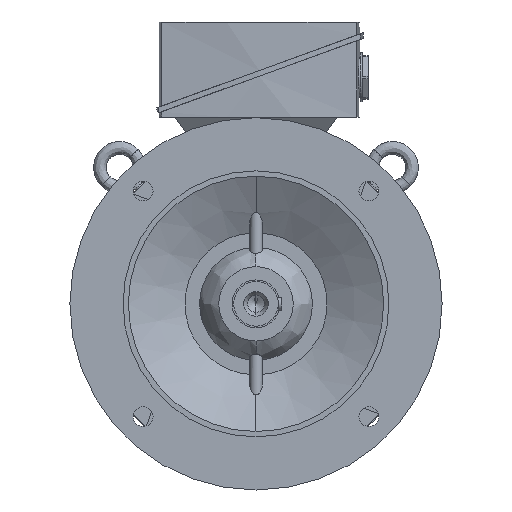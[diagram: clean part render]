
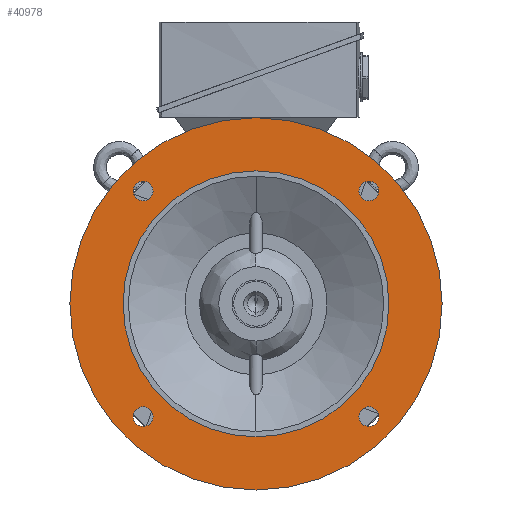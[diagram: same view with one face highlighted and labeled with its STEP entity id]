
A CAD part, left-side view. The second image highlights one B-rep face of the part: STEP entity #40978.
In plain terms, the highlighted planar face has unit normal (-1, 0, 0).
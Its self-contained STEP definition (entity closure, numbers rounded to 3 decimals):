
#47 = DIRECTION ( 'NONE',  ( 1., 0., 0. ) ) ;
#675 = AXIS2_PLACEMENT_3D ( 'NONE', #7169, #25656, #18448 ) ;
#1953 = FACE_BOUND ( 'NONE', #15771, .T. ) ;
#3530 = DIRECTION ( 'NONE',  ( 0., 0., -1. ) ) ;
#3945 = CIRCLE ( 'NONE', #12777, 175. ) ;
#4752 = CARTESIAN_POINT ( 'NONE',  ( -80., 106.066, 106.066 ) ) ;
#4880 = DIRECTION ( 'NONE',  ( 0., 0., 1. ) ) ;
#5073 = DIRECTION ( 'NONE',  ( 0., 0., 1. ) ) ;
#5212 = CIRCLE ( 'NONE', #42242, 9.25 ) ;
#5269 = ORIENTED_EDGE ( 'NONE', *, *, #36680, .F. ) ;
#5536 = ORIENTED_EDGE ( 'NONE', *, *, #22044, .T. ) ;
#5764 = EDGE_CURVE ( 'NONE', #9144, #29794, #5212, .T. ) ;
#7169 = CARTESIAN_POINT ( 'NONE',  ( -80., 0., 0. ) ) ;
#7203 = CIRCLE ( 'NONE', #19445, 9.25 ) ;
#7534 = VERTEX_POINT ( 'NONE', #45859 ) ;
#7991 = CARTESIAN_POINT ( 'NONE',  ( -80., 0., 0. ) ) ;
#8290 = EDGE_LOOP ( 'NONE', ( #5269, #12205 ) ) ;
#8779 = DIRECTION ( 'NONE',  ( 0., 0., 1. ) ) ;
#8905 = VERTEX_POINT ( 'NONE', #40727 ) ;
#9008 = EDGE_CURVE ( 'NONE', #15530, #31372, #13894, .T. ) ;
#9026 = EDGE_LOOP ( 'NONE', ( #49031, #27378 ) ) ;
#9144 = VERTEX_POINT ( 'NONE', #26617 ) ;
#9373 = CIRCLE ( 'NONE', #18645, 9.25 ) ;
#9951 = CARTESIAN_POINT ( 'NONE',  ( -80., 0., -125. ) ) ;
#10958 = FACE_BOUND ( 'NONE', #29039, .T. ) ;
#11384 = ORIENTED_EDGE ( 'NONE', *, *, #5764, .T. ) ;
#11869 = DIRECTION ( 'NONE',  ( 0., 0., -1. ) ) ;
#12199 = EDGE_CURVE ( 'NONE', #29794, #9144, #12855, .T. ) ;
#12200 = CIRCLE ( 'NONE', #17984, 125. ) ;
#12205 = ORIENTED_EDGE ( 'NONE', *, *, #40517, .F. ) ;
#12228 = CARTESIAN_POINT ( 'NONE',  ( -80., -106.066, -115.316 ) ) ;
#12468 = DIRECTION ( 'NONE',  ( 1., 0., 0. ) ) ;
#12777 = AXIS2_PLACEMENT_3D ( 'NONE', #7991, #34799, #11869 ) ;
#12854 = DIRECTION ( 'NONE',  ( 0., 0., -1. ) ) ;
#12855 = CIRCLE ( 'NONE', #49396, 9.25 ) ;
#12950 = ORIENTED_EDGE ( 'NONE', *, *, #38150, .T. ) ;
#13457 = FACE_BOUND ( 'NONE', #9026, .T. ) ;
#13733 = ORIENTED_EDGE ( 'NONE', *, *, #48762, .T. ) ;
#13894 = CIRCLE ( 'NONE', #675, 125. ) ;
#14143 = VERTEX_POINT ( 'NONE', #17258 ) ;
#15530 = VERTEX_POINT ( 'NONE', #9951 ) ;
#15771 = EDGE_LOOP ( 'NONE', ( #38264, #12950 ) ) ;
#16010 = CARTESIAN_POINT ( 'NONE',  ( -80., 106.066, -106.066 ) ) ;
#16264 = EDGE_CURVE ( 'NONE', #7534, #35371, #32964, .T. ) ;
#16525 = EDGE_LOOP ( 'NONE', ( #46994, #5536 ) ) ;
#17258 = CARTESIAN_POINT ( 'NONE',  ( -80., 106.066, -96.816 ) ) ;
#17984 = AXIS2_PLACEMENT_3D ( 'NONE', #44179, #20548, #12854 ) ;
#18448 = DIRECTION ( 'NONE',  ( 0., 0., -1. ) ) ;
#18645 = AXIS2_PLACEMENT_3D ( 'NONE', #27723, #31751, #5073 ) ;
#18665 = DIRECTION ( 'NONE',  ( 0., 0., 1. ) ) ;
#18778 = CARTESIAN_POINT ( 'NONE',  ( -80., 0., 0. ) ) ;
#18960 = CARTESIAN_POINT ( 'NONE',  ( -80., 106.066, 106.066 ) ) ;
#19445 = AXIS2_PLACEMENT_3D ( 'NONE', #40301, #20550, #36288 ) ;
#20024 = DIRECTION ( 'NONE',  ( 1., 0., 0. ) ) ;
#20190 = CARTESIAN_POINT ( 'NONE',  ( -80., -106.066, -106.066 ) ) ;
#20548 = DIRECTION ( 'NONE',  ( 1., 0., 0. ) ) ;
#20550 = DIRECTION ( 'NONE',  ( 1., 0., 0. ) ) ;
#22044 = EDGE_CURVE ( 'NONE', #31372, #15530, #12200, .T. ) ;
#22902 = CARTESIAN_POINT ( 'NONE',  ( -80., 106.066, 96.816 ) ) ;
#24837 = FACE_OUTER_BOUND ( 'NONE', #8290, .T. ) ;
#25075 = VERTEX_POINT ( 'NONE', #12228 ) ;
#25656 = DIRECTION ( 'NONE',  ( 1., 0., 0. ) ) ;
#26226 = DIRECTION ( 'NONE',  ( 0., 0., 1. ) ) ;
#26283 = ORIENTED_EDGE ( 'NONE', *, *, #26965, .T. ) ;
#26524 = PLANE ( 'NONE',  #36820 ) ;
#26617 = CARTESIAN_POINT ( 'NONE',  ( -80., -106.066, 115.316 ) ) ;
#26631 = DIRECTION ( 'NONE',  ( 1., 0., 0. ) ) ;
#26681 = CARTESIAN_POINT ( 'NONE',  ( -80., 150., 0. ) ) ;
#26965 = EDGE_CURVE ( 'NONE', #8905, #14143, #46572, .T. ) ;
#27210 = CARTESIAN_POINT ( 'NONE',  ( -80., -106.066, 106.066 ) ) ;
#27378 = ORIENTED_EDGE ( 'NONE', *, *, #30607, .T. ) ;
#27701 = DIRECTION ( 'NONE',  ( 1., 0., 0. ) ) ;
#27723 = CARTESIAN_POINT ( 'NONE',  ( -80., 106.066, -106.066 ) ) ;
#28417 = CIRCLE ( 'NONE', #35413, 175. ) ;
#29039 = EDGE_LOOP ( 'NONE', ( #11384, #46638 ) ) ;
#29794 = VERTEX_POINT ( 'NONE', #31865 ) ;
#30355 = DIRECTION ( 'NONE',  ( -1., 0., 0. ) ) ;
#30607 = EDGE_CURVE ( 'NONE', #25075, #34170, #38579, .T. ) ;
#31372 = VERTEX_POINT ( 'NONE', #45454 ) ;
#31751 = DIRECTION ( 'NONE',  ( 1., 0., 0. ) ) ;
#31865 = CARTESIAN_POINT ( 'NONE',  ( -80., -106.066, 96.816 ) ) ;
#32752 = DIRECTION ( 'NONE',  ( 0., 0., 1. ) ) ;
#32964 = CIRCLE ( 'NONE', #42539, 9.25 ) ;
#33797 = FACE_BOUND ( 'NONE', #16525, .T. ) ;
#34170 = VERTEX_POINT ( 'NONE', #39689 ) ;
#34518 = DIRECTION ( 'NONE',  ( 0., 0., 1. ) ) ;
#34565 = EDGE_CURVE ( 'NONE', #34170, #25075, #7203, .T. ) ;
#34799 = DIRECTION ( 'NONE',  ( 1., 0., 0. ) ) ;
#35054 = DIRECTION ( 'NONE',  ( 0., 0., 1. ) ) ;
#35371 = VERTEX_POINT ( 'NONE', #22902 ) ;
#35413 = AXIS2_PLACEMENT_3D ( 'NONE', #18778, #26631, #3530 ) ;
#36288 = DIRECTION ( 'NONE',  ( 0., 0., 1. ) ) ;
#36680 = EDGE_CURVE ( 'NONE', #40502, #36894, #3945, .T. ) ;
#36820 = AXIS2_PLACEMENT_3D ( 'NONE', #26681, #30355, #18665 ) ;
#36894 = VERTEX_POINT ( 'NONE', #37238 ) ;
#37238 = CARTESIAN_POINT ( 'NONE',  ( -80., 0., 175. ) ) ;
#37931 = AXIS2_PLACEMENT_3D ( 'NONE', #16010, #12468, #35054 ) ;
#38150 = EDGE_CURVE ( 'NONE', #35371, #7534, #42067, .T. ) ;
#38264 = ORIENTED_EDGE ( 'NONE', *, *, #16264, .T. ) ;
#38579 = CIRCLE ( 'NONE', #48439, 9.25 ) ;
#39689 = CARTESIAN_POINT ( 'NONE',  ( -80., -106.066, -96.816 ) ) ;
#40301 = CARTESIAN_POINT ( 'NONE',  ( -80., -106.066, -106.066 ) ) ;
#40502 = VERTEX_POINT ( 'NONE', #45790 ) ;
#40517 = EDGE_CURVE ( 'NONE', #36894, #40502, #28417, .T. ) ;
#40727 = CARTESIAN_POINT ( 'NONE',  ( -80., 106.066, -115.316 ) ) ;
#40978 = ADVANCED_FACE ( 'NONE', ( #33797, #24837, #10958, #1953, #41537, #13457 ), #26524, .T. ) ;
#41537 = FACE_BOUND ( 'NONE', #48870, .T. ) ;
#41621 = CARTESIAN_POINT ( 'NONE',  ( -80., -106.066, 106.066 ) ) ;
#42067 = CIRCLE ( 'NONE', #44635, 9.25 ) ;
#42242 = AXIS2_PLACEMENT_3D ( 'NONE', #27210, #27701, #4880 ) ;
#42539 = AXIS2_PLACEMENT_3D ( 'NONE', #18960, #45808, #34518 ) ;
#43157 = DIRECTION ( 'NONE',  ( 1., 0., 0. ) ) ;
#44179 = CARTESIAN_POINT ( 'NONE',  ( -80., 0., 0. ) ) ;
#44635 = AXIS2_PLACEMENT_3D ( 'NONE', #4752, #43157, #8779 ) ;
#45454 = CARTESIAN_POINT ( 'NONE',  ( -80., 0., 125. ) ) ;
#45790 = CARTESIAN_POINT ( 'NONE',  ( -80., 0., -175. ) ) ;
#45808 = DIRECTION ( 'NONE',  ( 1., 0., 0. ) ) ;
#45859 = CARTESIAN_POINT ( 'NONE',  ( -80., 106.066, 115.316 ) ) ;
#46572 = CIRCLE ( 'NONE', #37931, 9.25 ) ;
#46638 = ORIENTED_EDGE ( 'NONE', *, *, #12199, .T. ) ;
#46994 = ORIENTED_EDGE ( 'NONE', *, *, #9008, .T. ) ;
#48439 = AXIS2_PLACEMENT_3D ( 'NONE', #20190, #20024, #32752 ) ;
#48762 = EDGE_CURVE ( 'NONE', #14143, #8905, #9373, .T. ) ;
#48870 = EDGE_LOOP ( 'NONE', ( #13733, #26283 ) ) ;
#49031 = ORIENTED_EDGE ( 'NONE', *, *, #34565, .T. ) ;
#49396 = AXIS2_PLACEMENT_3D ( 'NONE', #41621, #47, #26226 ) ;
